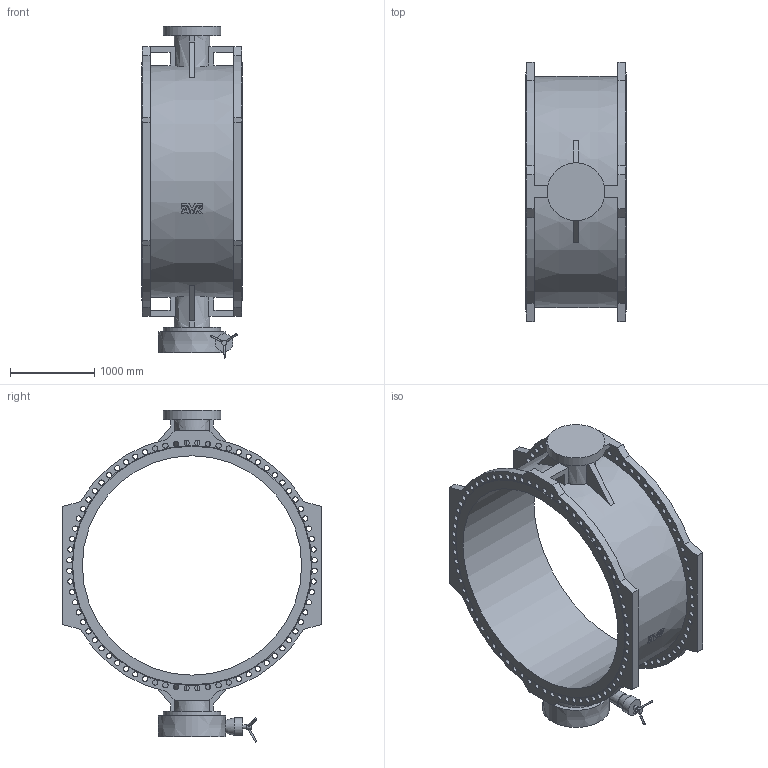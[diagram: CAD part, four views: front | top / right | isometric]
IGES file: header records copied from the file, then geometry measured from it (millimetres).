
Start section: SolidWorks IGES file using analytic representation for surfaces
Global section: file name: \\avksan2\techshare\PBM outline export from Enovia\O_756_100_DN2600_1XX000XX_REV02.igs; native system: SolidWorks 2019; preprocessor: SolidWorks 2019; author: pbm; date: 211011.090308; units: millimetre
Bounding box: 1190 x 3070 x 3935.37 mm (x, y, z)
Surface area: 34372721.7 mm2 (no closed solid volume)
Topology: 0 solids, 0 shells, 287 faces, 1650 edges, 1489 vertices
Faces by surface type: revolution 178, bspline 109
